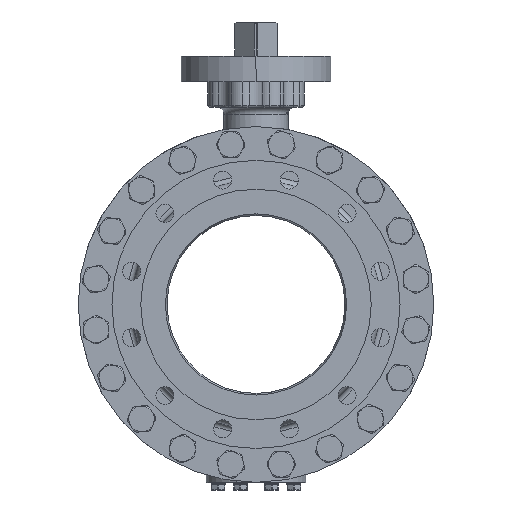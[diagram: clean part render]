
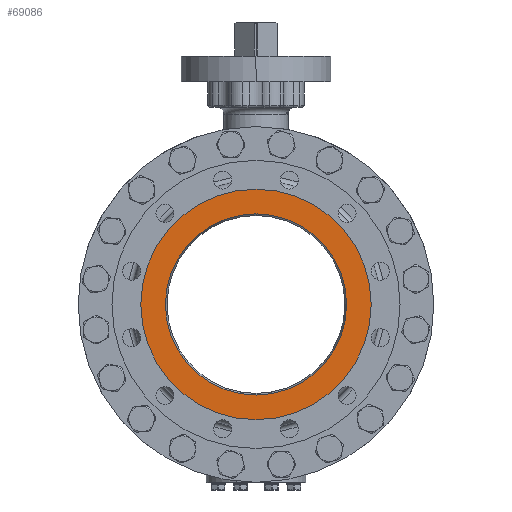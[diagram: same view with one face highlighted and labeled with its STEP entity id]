
A CAD part, left-side view. The second image highlights one B-rep face of the part: STEP entity #69086.
In plain terms, the highlighted planar face has unit normal (-1, 0, 0).
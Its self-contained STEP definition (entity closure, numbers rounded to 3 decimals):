
#3459=CARTESIAN_POINT('',(-266.5,0.,0.));
#3460=DIRECTION('',(1.,0.,0.));
#3461=DIRECTION('',(0.,0.,1.));
#3462=AXIS2_PLACEMENT_3D('',#3459,#3460,#3461);
#3464=CARTESIAN_POINT('',(-266.5,0.,0.));
#3465=DIRECTION('',(-1.,0.,0.));
#3466=DIRECTION('',(0.,0.,1.));
#3467=AXIS2_PLACEMENT_3D('',#3464,#3465,#3466);
#3469=CARTESIAN_POINT('',(-266.5,0.,0.));
#3470=DIRECTION('',(1.,0.,0.));
#3471=DIRECTION('',(0.,0.,1.));
#3472=AXIS2_PLACEMENT_3D('',#3469,#3470,#3471);
#3474=CARTESIAN_POINT('',(-266.5,0.,0.));
#3475=DIRECTION('',(-1.,0.,0.));
#3476=DIRECTION('',(0.,0.,1.));
#3477=AXIS2_PLACEMENT_3D('',#3474,#3475,#3476);
#58356=CARTESIAN_POINT('',(-266.5,0.,127.3));
#58358=VERTEX_POINT('',#58356);
#58364=CARTESIAN_POINT('',(-266.5,0.,-127.3));
#58366=VERTEX_POINT('',#58364);
#58483=CARTESIAN_POINT('',(-266.5,0.,161.95));
#58485=VERTEX_POINT('',#58483);
#58487=CARTESIAN_POINT('',(-266.5,0.,-161.95));
#58489=VERTEX_POINT('',#58487);
#69071=CARTESIAN_POINT('',(-266.5,0.,0.));
#69072=DIRECTION('',(-1.,0.,0.));
#69073=DIRECTION('',(0.,0.,-1.));
#69074=AXIS2_PLACEMENT_3D('',#69071,#69072,#69073);
#69075=PLANE('',#69074);
#69076=ORIENTED_EDGE('',*,*,#69064,.F.);
#69077=ORIENTED_EDGE('',*,*,#69053,.T.);
#69078=EDGE_LOOP('',(#69076,#69077));
#69079=FACE_OUTER_BOUND('',#69078,.F.);
#69081=ORIENTED_EDGE('',*,*,#69080,.F.);
#69083=ORIENTED_EDGE('',*,*,#69082,.T.);
#69084=EDGE_LOOP('',(#69081,#69083));
#69085=FACE_BOUND('',#69084,.F.);
#69086=ADVANCED_FACE('',(#69079,#69085),#69075,.T.);
#3463=CIRCLE('',#3462,161.95);
#3468=CIRCLE('',#3467,161.95);
#3473=CIRCLE('',#3472,127.3);
#3478=CIRCLE('',#3477,127.3);
#69053=EDGE_CURVE('',#58485,#58489,#3463,.T.);
#69064=EDGE_CURVE('',#58485,#58489,#3468,.T.);
#69080=EDGE_CURVE('',#58358,#58366,#3473,.T.);
#69082=EDGE_CURVE('',#58358,#58366,#3478,.T.);
